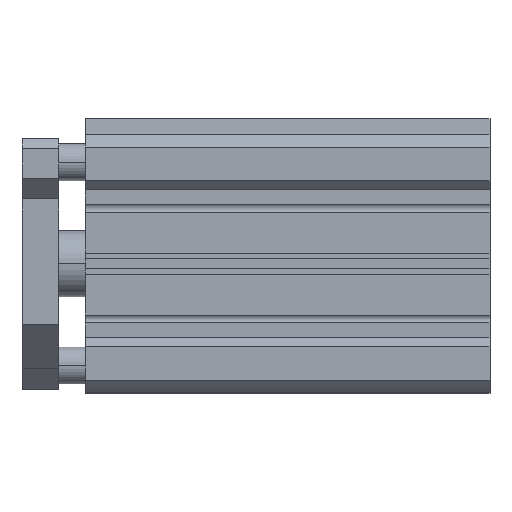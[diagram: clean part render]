
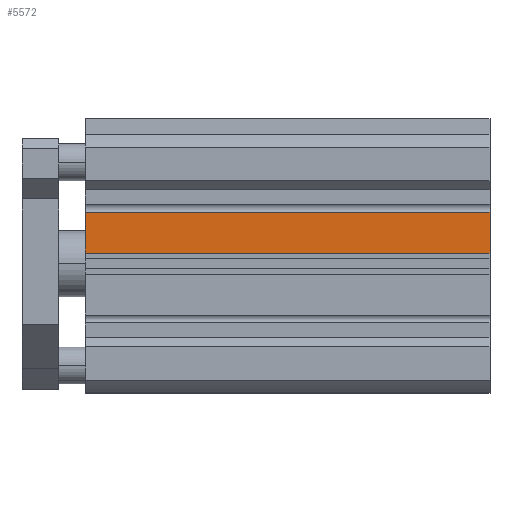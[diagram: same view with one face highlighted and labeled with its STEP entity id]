
A CAD part, top view. The second image highlights one B-rep face of the part: STEP entity #5572.
In plain terms, the highlighted planar face has unit normal (0, 0, 1).
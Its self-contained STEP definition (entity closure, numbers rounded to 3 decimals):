
#11 = CARTESIAN_POINT ( 'NONE',  ( 0., 19.5, 45.5 ) ) ;
#60 = LINE ( 'NONE', #4721, #2196 ) ;
#196 = DIRECTION ( 'NONE',  ( 0., -1., 0. ) ) ;
#259 = FACE_OUTER_BOUND ( 'NONE', #4421, .T. ) ;
#277 = ORIENTED_EDGE ( 'NONE', *, *, #4033, .F. ) ;
#359 = CARTESIAN_POINT ( 'NONE',  ( 0., 4., 45.5 ) ) ;
#373 = VECTOR ( 'NONE', #5980, 1000. ) ;
#461 = CARTESIAN_POINT ( 'NONE',  ( 0., 19.5, 45.5 ) ) ;
#634 = EDGE_CURVE ( 'NONE', #5659, #1719, #2770, .T. ) ;
#859 = LINE ( 'NONE', #1147, #373 ) ;
#862 = DIRECTION ( 'NONE',  ( 0., -1., 0. ) ) ;
#984 = DIRECTION ( 'NONE',  ( -1., 0., 0. ) ) ;
#1147 = CARTESIAN_POINT ( 'NONE',  ( 153.5, 19.5, 45.5 ) ) ;
#1719 = VERTEX_POINT ( 'NONE', #359 ) ;
#2033 = CARTESIAN_POINT ( 'NONE',  ( 153.5, 4., 45.5 ) ) ;
#2196 = VECTOR ( 'NONE', #984, 1000. ) ;
#2203 = DIRECTION ( 'NONE',  ( 0., 0., -1. ) ) ;
#2356 = ORIENTED_EDGE ( 'NONE', *, *, #5946, .T. ) ;
#2571 = PLANE ( 'NONE',  #4794 ) ;
#2770 = LINE ( 'NONE', #461, #4128 ) ;
#2811 = VECTOR ( 'NONE', #5654, 1000. ) ;
#3395 = LINE ( 'NONE', #4232, #2811 ) ;
#3483 = CARTESIAN_POINT ( 'NONE',  ( 153.5, 19.5, 45.5 ) ) ;
#4033 = EDGE_CURVE ( 'NONE', #4215, #4563, #3395, .T. ) ;
#4057 = CARTESIAN_POINT ( 'NONE',  ( 153.5, 19.5, 45.5 ) ) ;
#4128 = VECTOR ( 'NONE', #862, 1000. ) ;
#4215 = VERTEX_POINT ( 'NONE', #3483 ) ;
#4232 = CARTESIAN_POINT ( 'NONE',  ( 153.5, 19.5, 45.5 ) ) ;
#4421 = EDGE_LOOP ( 'NONE', ( #5807, #5405, #277, #2356 ) ) ;
#4512 = EDGE_CURVE ( 'NONE', #4563, #1719, #60, .T. ) ;
#4563 = VERTEX_POINT ( 'NONE', #2033 ) ;
#4721 = CARTESIAN_POINT ( 'NONE',  ( 153.5, 4., 45.5 ) ) ;
#4794 = AXIS2_PLACEMENT_3D ( 'NONE', #4057, #2203, #196 ) ;
#5405 = ORIENTED_EDGE ( 'NONE', *, *, #4512, .F. ) ;
#5572 = ADVANCED_FACE ( 'NONE', ( #259 ), #2571, .F. ) ;
#5654 = DIRECTION ( 'NONE',  ( 0., -1., 0. ) ) ;
#5659 = VERTEX_POINT ( 'NONE', #11 ) ;
#5807 = ORIENTED_EDGE ( 'NONE', *, *, #634, .T. ) ;
#5946 = EDGE_CURVE ( 'NONE', #4215, #5659, #859, .T. ) ;
#5980 = DIRECTION ( 'NONE',  ( -1., 0., 0. ) ) ;
